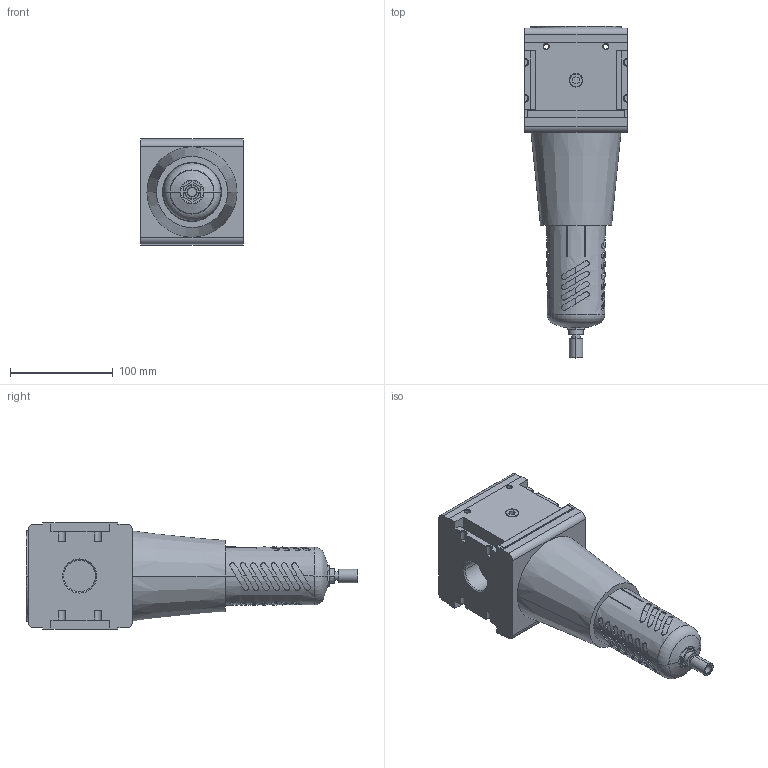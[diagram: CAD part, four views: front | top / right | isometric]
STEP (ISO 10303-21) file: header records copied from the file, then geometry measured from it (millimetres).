
FILE_DESCRIPTION((''),'2;1');
FILE_NAME('0821303821_ASM','2019-11-29T',('GIO1HC'),(''),'CREO PARAMETRIC BY PTC INC, 2016260','CREO PARAMETRIC BY PTC INC, 2016260','');
FILE_SCHEMA(('CONFIG_CONTROL_DESIGN'));
Length unit declared in the file: millimetre
Products named in the file (4): 0821303821-A; NL6-RESERVOIR-PC-AUTO; 0821303821-D; 0821303821_ASM
Assembly tree (3 placements, depth 2):
  0821303821_ASM
    0821303821-A
    NL6-RESERVOIR-PC-AUTO
    0821303821-D
Bounding box: 100 x 322.5 x 103.4 mm (x, y, z)
Volume: 1643562.1 mm3; surface area: 144051.3 mm2
Topology: 3 solids, 3 shells, 291 faces, 862 edges, 564 vertices
Faces by surface type: plane 149, cylinder 96, cone 36, torus 10
Entity records: 14463 total; most frequent: CARTESIAN_POINT 6832, ORIENTED_EDGE 1724, DIRECTION 1356, EDGE_CURVE 862, VERTEX_POINT 564, AXIS2_PLACEMENT_3D 460, VECTOR 436, LINE 436
